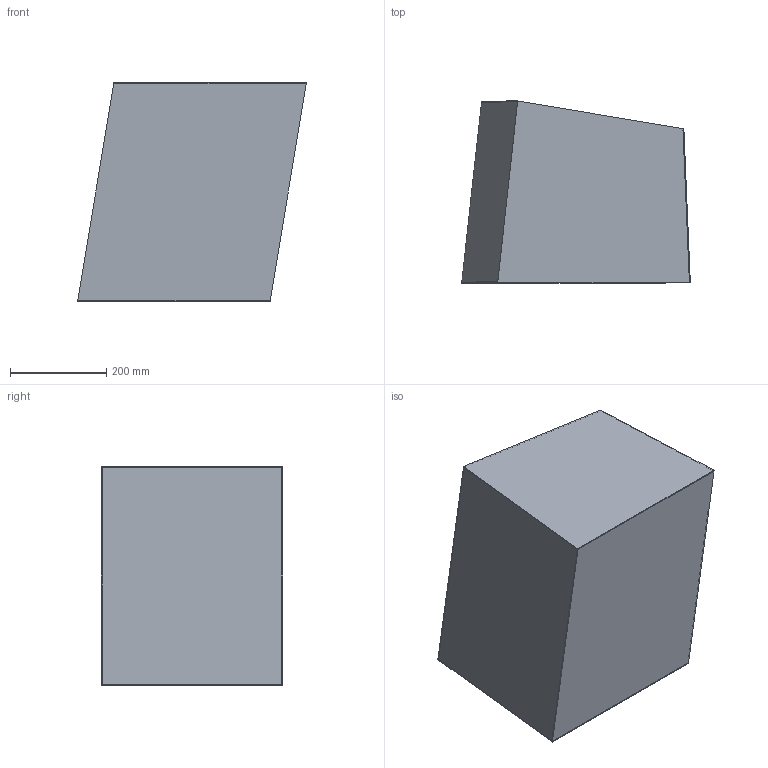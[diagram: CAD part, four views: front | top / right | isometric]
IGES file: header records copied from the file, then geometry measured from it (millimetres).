
Global section: file name: C:\Users\anava\OneDrive\Escritorio\Wireframe3D_01.igs; native system: Rhinoceros ( Jun 12 2023 ); preprocessor: Trout Lake IGES 012 Jun 12 2023; date: 240319.140235; units: millimetre
Bounding box: 474.79 x 377.73 x 454 mm (x, y, z)
Surface area: 1846188.3 mm2 (no closed solid volume)
Topology: 0 solids, 0 shells, 36 faces, 144 edges, 144 vertices
Faces by surface type: bspline 36
